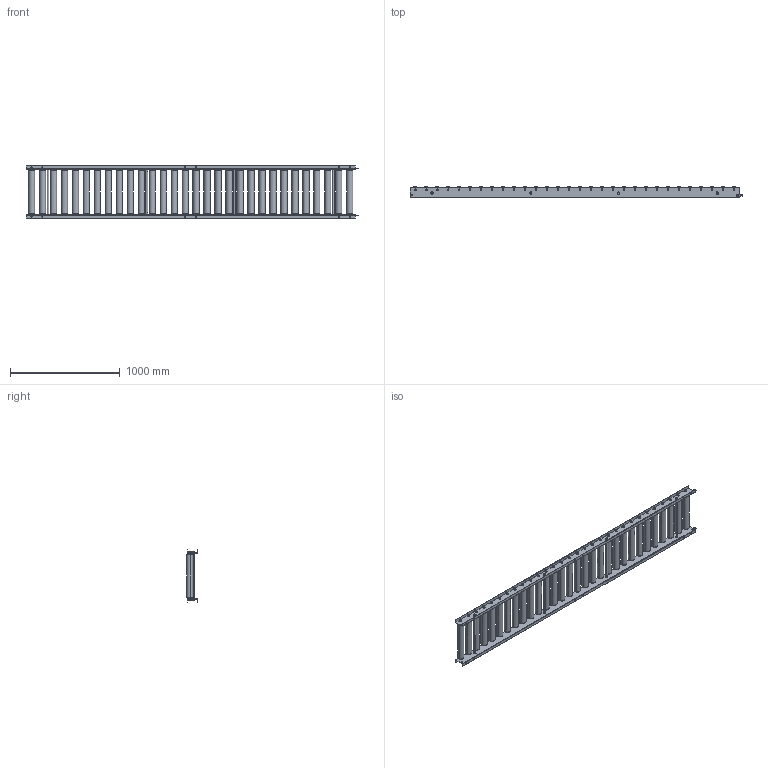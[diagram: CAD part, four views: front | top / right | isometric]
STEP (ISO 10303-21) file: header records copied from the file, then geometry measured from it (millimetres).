
FILE_DESCRIPTION (( 'STEP AP203' ), '1' );
FILE_NAME ('RH-5714P.step', '2024-02-26T07:31:30', ( '' ), ( '' ), 'SwSTEP 2.0', 'SolidWorks 2023', '' );
FILE_SCHEMA (( 'CONFIG_CONTROL_DESIGN' ));
Length unit declared in the file: millimetre
Products named in the file (1): RH-5714P
Bounding box: 3025 x 100.07 x 475 mm (x, y, z)
Volume: 32902521.2 mm3; surface area: 5641060.5 mm2
Topology: 144 solids, 144 shells, 3020 faces, 7312 edges, 4648 vertices
Faces by surface type: plane 1720, cylinder 1012, torus 240, cone 48
Entity records: 90251 total; most frequent: CARTESIAN_POINT 17333, DIRECTION 15898, ORIENTED_EDGE 14624, EDGE_CURVE 7312, AXIS2_PLACEMENT_3D 5933, VERTEX_POINT 4648, VECTOR 4032, LINE 4032
